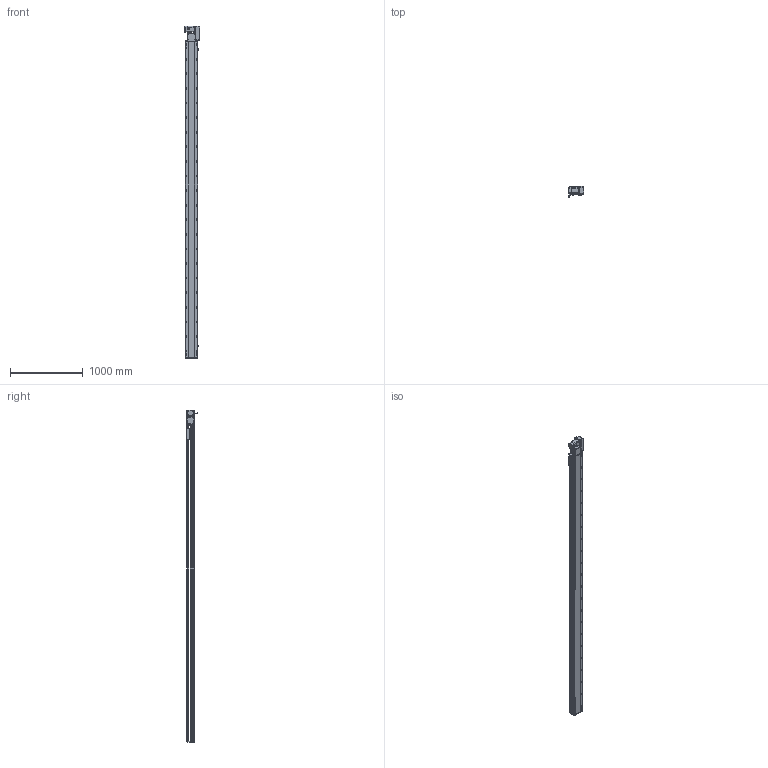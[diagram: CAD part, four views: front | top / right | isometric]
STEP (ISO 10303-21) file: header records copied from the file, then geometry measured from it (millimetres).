
FILE_DESCRIPTION (( 'STEP AP214' ), '1' );
FILE_NAME ('RTB17S-XX-4050-R-M75-C4.STEP', '2025-12-12T01:57:35', ( '' ), ( '' ), 'SwSTEP 2.0', 'SolidWorks 2018', '' );
FILE_SCHEMA (( 'AUTOMOTIVE_DESIGN' ));
Length unit declared in the file: millimetre
Products named in the file (15): RTB17S-L-014-T20-P75--々湍釱^RTB17S-R-々湍釱蚾饜-750W_RTB17S-XX-XX-R-M75-C4; RTB17S-L-001-耜醱啣^RTB17S-XX-XX-R-M75-C4; RTB17-R-011菁釱^RTB17S-XX-XX-R-M75-C4; RTB17S-L-007奻裔^RTB17S-XX-XX-R-M75-C4; RTB17S-L-004-賑釱^RTB17S-賑釱_RTB17S-XX-XX-R-M75-C4; RTB17S-R-々湍釱蚾饜-750W^RTB17S-XX-XX-R-M75-C4; RTB22S-GY-008-M75--萇儂啣^RTB17S-R-々湍釱蚾饜-750W_RTB17S-XX-XX-R-M75-C4; RTB22S-GY-005P^RTB17S-R-々湍釱蚾饜-750W_RTB17S-XX-XX-R-M75-C4; RTB22S-GY-018P^RTB17S-R-々湍釱蚾饜-750W_RTB17S-XX-XX-R-M75-C4; 750W萇儂^RTB17S-XX-XX-R-M75-C4; RTB17S-賑釱^RTB17S-XX-XX-R-M75-C4; RTB22S-GY-017P^RTB17S-R-々湍釱蚾饜-750W_RTB17S-XX-XX-R-M75-C4; RTB17S-XX-4050-R-M75-C4; RTH13-BL-012覜茼え俋离^RTB17S-賑釱_RTB17S-XX-XX-R-M75-C4; EE672^RTB17S-XX-XX-R-M75-C4
Assembly tree (17 placements, depth 3):
  RTB17S-XX-4050-R-M75-C4
    RTB17-R-011菁釱^RTB17S-XX-XX-R-M75-C4
    EE672^RTB17S-XX-XX-R-M75-C4  x3
    RTB17S-L-001-耜醱啣^RTB17S-XX-XX-R-M75-C4
    RTB17S-賑釱^RTB17S-XX-XX-R-M75-C4
      RTB17S-L-004-賑釱^RTB17S-賑釱_RTB17S-XX-XX-R-M75-C4
      RTH13-BL-012覜茼え俋离^RTB17S-賑釱_RTB17S-XX-XX-R-M75-C4
    RTB17S-L-007奻裔^RTB17S-XX-XX-R-M75-C4
    750W萇儂^RTB17S-XX-XX-R-M75-C4
    RTB17S-R-々湍釱蚾饜-750W^RTB17S-XX-XX-R-M75-C4
      RTB17S-L-014-T20-P75--々湍釱^RTB17S-R-々湍釱蚾饜-750W_RTB17S-XX-XX-R-M75-C4
      RTB22S-GY-005P^RTB17S-R-々湍釱蚾饜-750W_RTB17S-XX-XX-R-M75-C4
      RTB22S-GY-017P^RTB17S-R-々湍釱蚾饜-750W_RTB17S-XX-XX-R-M75-C4  x2
      RTB22S-GY-008-M75--萇儂啣^RTB17S-R-々湍釱蚾饜-750W_RTB17S-XX-XX-R-M75-C4
      RTB22S-GY-018P^RTB17S-R-々湍釱蚾饜-750W_RTB17S-XX-XX-R-M75-C4
Bounding box: 207.4 x 152.7 x 4549 mm (x, y, z)
Volume: 31261931.3 mm3; surface area: 5819121.8 mm2
Topology: 17 solids, 17 shells, 2345 faces, 6646 edges, 4310 vertices
Faces by surface type: plane 1002, cylinder 927, bspline 294, cone 110, sphere 8, torus 4
Entity records: 70390 total; most frequent: CARTESIAN_POINT 21110, ORIENTED_EDGE 10136, DIRECTION 9302, EDGE_CURVE 5068, AXIS2_PLACEMENT_3D 3330, VERTEX_POINT 3314, VECTOR 2642, LINE 2642
